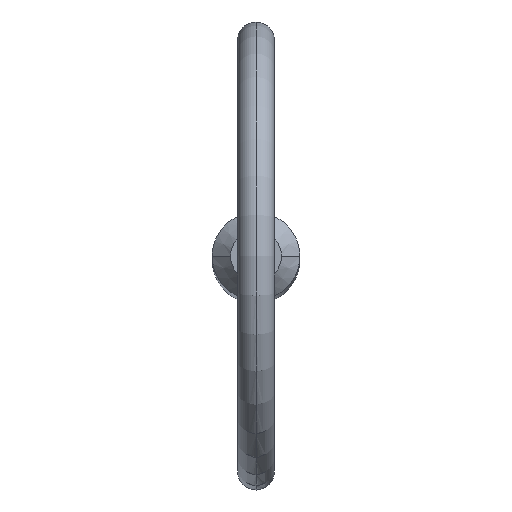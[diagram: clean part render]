
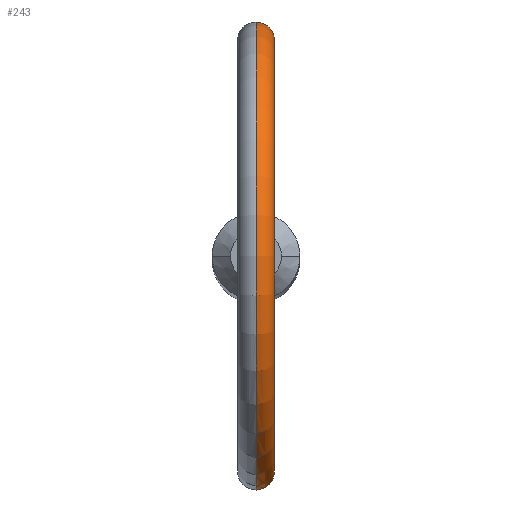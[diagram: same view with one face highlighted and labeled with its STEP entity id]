
A CAD part, top view. The second image highlights one B-rep face of the part: STEP entity #243.
In plain terms, the highlighted toroidal (fillet/blend) face has major radius 11.7 mm and minor radius 1 mm.
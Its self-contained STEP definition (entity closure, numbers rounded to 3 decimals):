
#13 = VERTEX_POINT ( 'NONE', #346 ) ;
#17 = CARTESIAN_POINT ( 'NONE',  ( 0., 2.38, 101.825 ) ) ;
#26 = CARTESIAN_POINT ( 'NONE',  ( 0.996, -2.162, 102.964 ) ) ;
#33 = CARTESIAN_POINT ( 'NONE',  ( 0.268, -2.368, 101.851 ) ) ;
#40 = B_SPLINE_CURVE_WITH_KNOTS ( 'NONE', 3,
 ( #17, #64, #298, #141, #291, #191, #434, #147, #218, #226, #402, #74, #222, #409, #475, #369, #293, #469 ),
 .UNSPECIFIED., .F., .F.,
 ( 4, 2, 2, 2, 2, 2, 2, 2, 4 ),
 ( 0.001, 0.001, 0.001, 0.002, 0.002, 0.003, 0.003, 0.003, 0.004 ),
 .UNSPECIFIED. ) ;
#60 = ORIENTED_EDGE ( 'NONE', *, *, #333, .F. ) ;
#64 = CARTESIAN_POINT ( 'NONE',  ( 0.133, 2.38, 101.825 ) ) ;
#67 = VERTEX_POINT ( 'NONE', #347 ) ;
#71 = CARTESIAN_POINT ( 'NONE',  ( 1.003, -2.158, 102.699 ) ) ;
#74 = CARTESIAN_POINT ( 'NONE',  ( 0.864, 2.218, 103.341 ) ) ;
#88 = AXIS2_PLACEMENT_3D ( 'NONE', #439, #186, #184 ) ;
#106 = ORIENTED_EDGE ( 'NONE', *, *, #241, .F. ) ;
#109 = DIRECTION ( 'NONE',  ( 1., 0., 0. ) ) ;
#111 = CARTESIAN_POINT ( 'NONE',  ( 0.811, -2.24, 102.206 ) ) ;
#114 = CIRCLE ( 'NONE', #456, 12.7 ) ;
#119 = CARTESIAN_POINT ( 'NONE',  ( 0., 0., 114.3 ) ) ;
#127 = ORIENTED_EDGE ( 'NONE', *, *, #153, .T. ) ;
#130 = CIRCLE ( 'NONE', #212, 10.7 ) ;
#141 = CARTESIAN_POINT ( 'NONE',  ( 0.513, 2.327, 101.949 ) ) ;
#142 = CARTESIAN_POINT ( 'NONE',  ( 0.966, -2.176, 103.097 ) ) ;
#147 = CARTESIAN_POINT ( 'NONE',  ( 0.981, 2.169, 102.562 ) ) ;
#153 = EDGE_CURVE ( 'NONE', #13, #194, #114, .T. ) ;
#158 = EDGE_LOOP ( 'NONE', ( #106, #127, #385, #60 ) ) ;
#172 = DIRECTION ( 'NONE',  ( 0., 0., -1. ) ) ;
#178 = CARTESIAN_POINT ( 'NONE',  ( 0., -2.38, 101.825 ) ) ;
#184 = DIRECTION ( 'NONE',  ( 0., 0., -1. ) ) ;
#186 = DIRECTION ( 'NONE',  ( 1., 0., 0. ) ) ;
#190 = CARTESIAN_POINT ( 'NONE',  ( 0.981, -2.169, 102.564 ) ) ;
#191 = CARTESIAN_POINT ( 'NONE',  ( 0.811, 2.24, 102.206 ) ) ;
#194 = VERTEX_POINT ( 'NONE', #178 ) ;
#198 = B_SPLINE_CURVE_WITH_KNOTS ( 'NONE', 3,
 ( #470, #324, #297, #332, #256, #366, #408, #142, #26, #71, #190, #325, #111, #438, #474, #33, #413, #262 ),
 .UNSPECIFIED., .F., .F.,
 ( 4, 2, 2, 2, 2, 2, 2, 2, 4 ),
 ( 0.003, 0.003, 0.003, 0.004, 0.004, 0.005, 0.005, 0.005, 0.006 ),
 .UNSPECIFIED. ) ;
#212 = AXIS2_PLACEMENT_3D ( 'NONE', #119, #109, #364 ) ;
#218 = CARTESIAN_POINT ( 'NONE',  ( 1.003, 2.158, 102.697 ) ) ;
#222 = CARTESIAN_POINT ( 'NONE',  ( 0.793, 2.246, 103.453 ) ) ;
#226 = CARTESIAN_POINT ( 'NONE',  ( 0.996, 2.162, 102.964 ) ) ;
#241 = EDGE_CURVE ( 'NONE', #13, #309, #40, .T. ) ;
#243 = ADVANCED_FACE ( 'NONE', ( #471 ), #416, .T. ) ;
#256 = CARTESIAN_POINT ( 'NONE',  ( 0.615, -2.301, 103.644 ) ) ;
#262 = CARTESIAN_POINT ( 'NONE',  ( 0., -2.38, 101.825 ) ) ;
#291 = CARTESIAN_POINT ( 'NONE',  ( 0.625, 2.299, 102.021 ) ) ;
#293 = CARTESIAN_POINT ( 'NONE',  ( 0.134, 2.38, 103.868 ) ) ;
#297 = CARTESIAN_POINT ( 'NONE',  ( 0.268, -2.368, 103.837 ) ) ;
#298 = CARTESIAN_POINT ( 'NONE',  ( 0.267, 2.368, 101.85 ) ) ;
#309 = VERTEX_POINT ( 'NONE', #375 ) ;
#321 = CARTESIAN_POINT ( 'NONE',  ( 0., 0., 114.3 ) ) ;
#324 = CARTESIAN_POINT ( 'NONE',  ( 0.134, -2.38, 103.868 ) ) ;
#325 = CARTESIAN_POINT ( 'NONE',  ( 0.885, -2.21, 102.317 ) ) ;
#332 = CARTESIAN_POINT ( 'NONE',  ( 0.508, -2.328, 103.724 ) ) ;
#333 = EDGE_CURVE ( 'NONE', #309, #67, #130, .T. ) ;
#346 = CARTESIAN_POINT ( 'NONE',  ( 0., 2.38, 101.825 ) ) ;
#347 = CARTESIAN_POINT ( 'NONE',  ( 0., -2.38, 103.868 ) ) ;
#364 = DIRECTION ( 'NONE',  ( 0., 0., -1. ) ) ;
#366 = CARTESIAN_POINT ( 'NONE',  ( 0.793, -2.246, 103.452 ) ) ;
#369 = CARTESIAN_POINT ( 'NONE',  ( 0.267, 2.368, 103.837 ) ) ;
#375 = CARTESIAN_POINT ( 'NONE',  ( 0., 2.38, 103.868 ) ) ;
#385 = ORIENTED_EDGE ( 'NONE', *, *, #419, .F. ) ;
#402 = CARTESIAN_POINT ( 'NONE',  ( 0.966, 2.176, 103.097 ) ) ;
#408 = CARTESIAN_POINT ( 'NONE',  ( 0.865, -2.218, 103.34 ) ) ;
#409 = CARTESIAN_POINT ( 'NONE',  ( 0.614, 2.301, 103.645 ) ) ;
#413 = CARTESIAN_POINT ( 'NONE',  ( 0.133, -2.38, 101.825 ) ) ;
#416 = TOROIDAL_SURFACE ( 'NONE', #88, 11.7, 1. ) ;
#419 = EDGE_CURVE ( 'NONE', #67, #194, #198, .T. ) ;
#429 = DIRECTION ( 'NONE',  ( 1., 0., 0. ) ) ;
#434 = CARTESIAN_POINT ( 'NONE',  ( 0.884, 2.21, 102.317 ) ) ;
#438 = CARTESIAN_POINT ( 'NONE',  ( 0.625, -2.299, 102.021 ) ) ;
#439 = CARTESIAN_POINT ( 'NONE',  ( 0., 0., 114.3 ) ) ;
#456 = AXIS2_PLACEMENT_3D ( 'NONE', #321, #429, #172 ) ;
#469 = CARTESIAN_POINT ( 'NONE',  ( 0., 2.38, 103.868 ) ) ;
#470 = CARTESIAN_POINT ( 'NONE',  ( 0., -2.38, 103.868 ) ) ;
#471 = FACE_OUTER_BOUND ( 'NONE', #158, .T. ) ;
#474 = CARTESIAN_POINT ( 'NONE',  ( 0.513, -2.327, 101.948 ) ) ;
#475 = CARTESIAN_POINT ( 'NONE',  ( 0.509, 2.328, 103.724 ) ) ;
